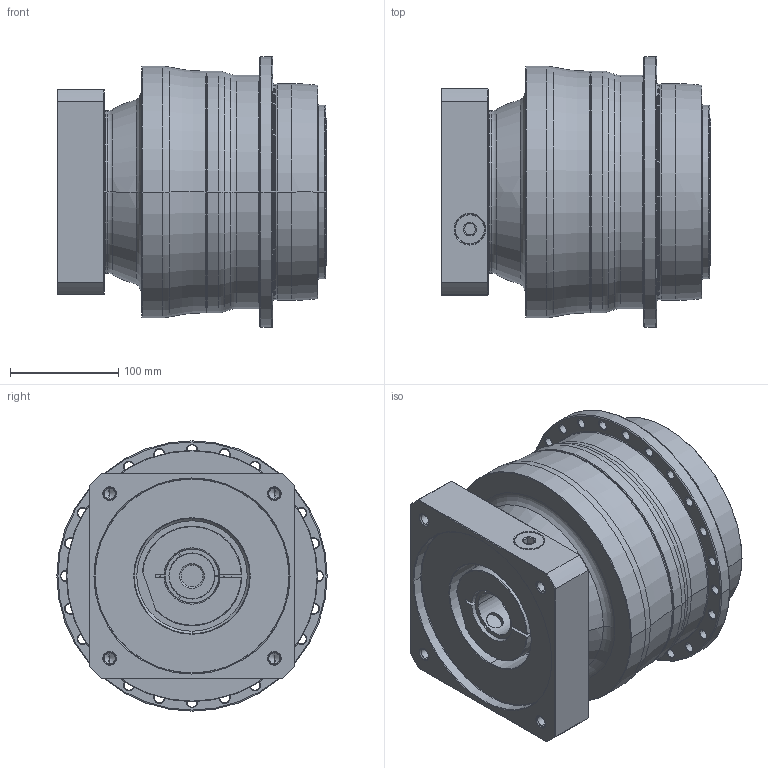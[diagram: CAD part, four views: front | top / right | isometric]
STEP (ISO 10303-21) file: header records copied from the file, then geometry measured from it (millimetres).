
FILE_DESCRIPTION((''),'2;1');
FILE_NAME('AP200_2ST_42-P0409A00201_ASM','2018-05-29T',('d01226'),(''),'PRO/ENGINEER BY PARAMETRIC TECHNOLOGY CORPORATION, 2008410','PRO/ENGINEER BY PARAMETRIC TECHNOLOGY CORPORATION, 2008410','');
FILE_SCHEMA(('CONFIG_CONTROL_DESIGN'));
Length unit declared in the file: millimetre
Products named in the file (9): P0278601003; P0359601103; P1317610501; P0503A00012; P0912505001; P1211600001; P0409A00201; 21711422019; AP200_2ST_42-P0409A00201_ASM
Assembly tree (8 placements, depth 2):
  AP200_2ST_42-P0409A00201_ASM
    P0278601003
    P0359601103
    P1317610501
    P0503A00012
    P0912505001
    P1211600001
    P0409A00201
    21711422019
Bounding box: 249 x 249.5 x 249.5 mm (x, y, z)
Volume: 7450847.1 mm3; surface area: 613861.7 mm2
Topology: 9 solids, 34 shells, 651 faces, 1555 edges, 960 vertices
Faces by surface type: cylinder 272, cone 180, plane 109, torus 74, bspline 16
Entity records: 23981 total; most frequent: CARTESIAN_POINT 8073, DIRECTION 3659, ORIENTED_EDGE 2992, AXIS2_PLACEMENT_3D 1571, EDGE_CURVE 1547, VERTEX_POINT 960, CIRCLE 909, EDGE_LOOP 793
